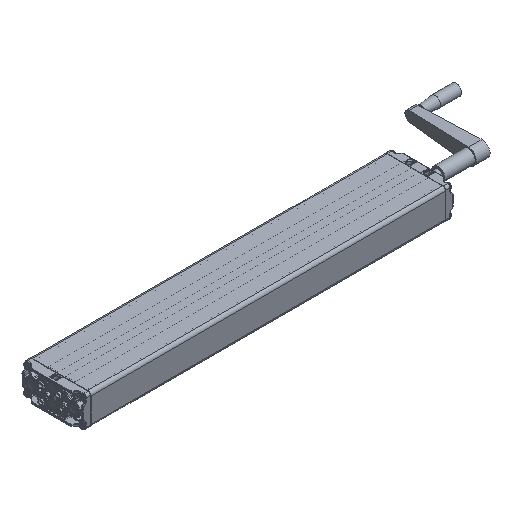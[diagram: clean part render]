
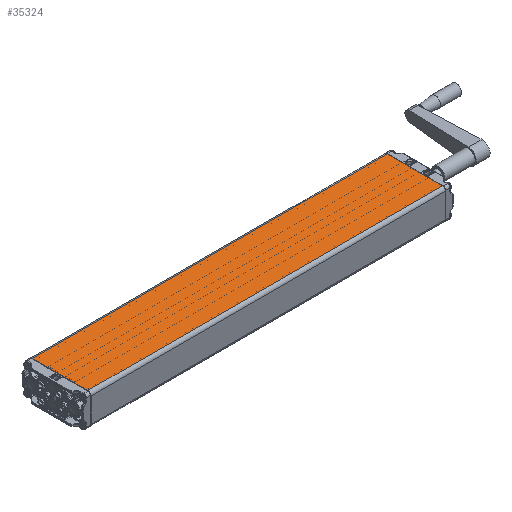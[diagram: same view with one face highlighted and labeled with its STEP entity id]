
A CAD part, isometric view. The second image highlights one B-rep face of the part: STEP entity #35324.
In plain terms, the highlighted planar face has unit normal (0, 0, 1).
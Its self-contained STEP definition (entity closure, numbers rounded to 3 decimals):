
#3673=LINE('',#75925,#5032);
#3674=LINE('',#75928,#5033);
#3675=LINE('',#75930,#5034);
#3676=LINE('',#75932,#5035);
#5032=VECTOR('',#43127,1000.);
#5033=VECTOR('',#43128,1000.);
#5034=VECTOR('',#43129,1000.);
#5035=VECTOR('',#43130,1000.);
#10645=ORIENTED_EDGE('',*,*,#16868,.T.);
#10646=ORIENTED_EDGE('',*,*,#16869,.T.);
#10647=ORIENTED_EDGE('',*,*,#16870,.T.);
#10648=ORIENTED_EDGE('',*,*,#16871,.T.);
#16868=EDGE_CURVE('',#20238,#20239,#3673,.F.);
#16869=EDGE_CURVE('',#20239,#20240,#3674,.T.);
#16870=EDGE_CURVE('',#20240,#20241,#3675,.T.);
#16871=EDGE_CURVE('',#20241,#20238,#3676,.F.);
#20238=VERTEX_POINT('',#75926);
#20239=VERTEX_POINT('',#75927);
#20240=VERTEX_POINT('',#75929);
#20241=VERTEX_POINT('',#75931);
#23921=EDGE_LOOP('',(#10645,#10646,#10647,#10648));
#26041=FACE_BOUND('',#23921,.T.);
#27239=PLANE('',#37774);
#35324=ADVANCED_FACE('',(#26041),#27239,.T.);
#37774=AXIS2_PLACEMENT_3D('',#75924,#43125,#43126);
#43125=DIRECTION('',(0.,0.,1.));
#43126=DIRECTION('',(1.,0.,0.));
#43127=DIRECTION('',(0.,-1.,0.));
#43128=DIRECTION('',(-1.,0.,0.));
#43129=DIRECTION('',(0.,-1.,0.));
#43130=DIRECTION('',(-1.,0.,0.));
#75924=CARTESIAN_POINT('',(60.,692.5,30.));
#75925=CARTESIAN_POINT('',(54.,692.5,30.));
#75926=CARTESIAN_POINT('',(54.,0.5,30.));
#75927=CARTESIAN_POINT('',(54.,692.,30.));
#75928=CARTESIAN_POINT('',(60.,692.,30.));
#75929=CARTESIAN_POINT('',(-54.,692.,30.));
#75930=CARTESIAN_POINT('',(-54.,692.5,30.));
#75931=CARTESIAN_POINT('',(-54.,0.5,30.));
#75932=CARTESIAN_POINT('',(54.,0.5,30.));
